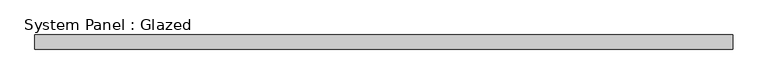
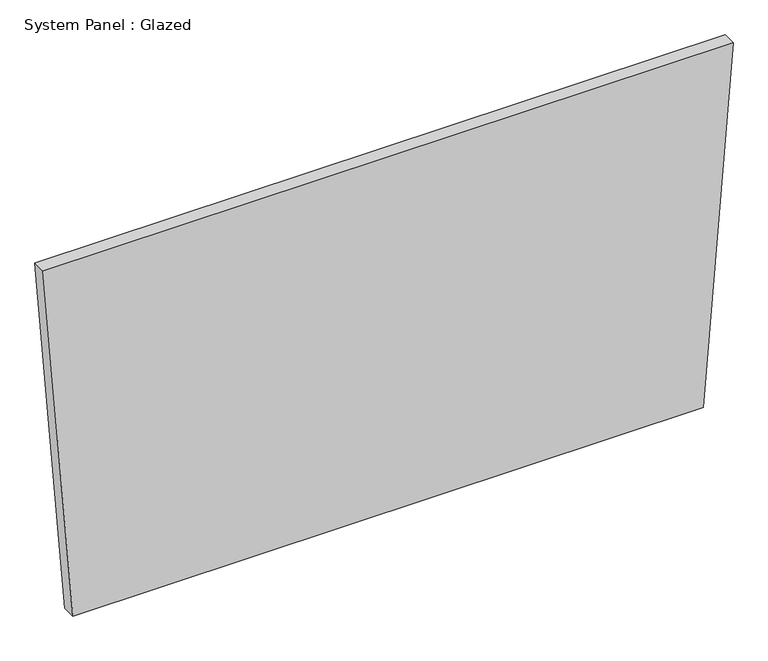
"""IFC4 building model written with IfcOpenShell, lengths in millimetres: plate geometry, System Panel : Glazed."""

from ifc_helpers import new_model, si_unit, frame, origin, place, context, project, spatial, polyline, outline, extrude, source, transform, mapped, element, save


def system_panel_glazed_fd240ddc(model_context):
    return source(origin(), model_context, "Body", "SweptSolid", [
        extrude(outline(polyline([(0.0, -574.7449039), (0.0, 574.7454379), (684.5126663, 629.2145187), (684.5193773, -629.2145187), (0.0, -574.7449039)])), frame((0.0, 19.05, 0.0), z_axis=(0.0, 1.0, 0.0), x_axis=(0.0, 0.0, 1.0)), (0.0, 0.0, 1.0), 25.4),
    ])


if __name__ == "__main__":
    model = new_model("IFC4")
    model_context = context("Model", 3, world=origin())
    ifc_project = project(units=[si_unit("LENGTHUNIT", "METRE", prefix="MILLI")], contexts=[model_context])
    site = spatial("IfcSite", under=ifc_project)
    building = spatial("IfcBuilding", under=site)
    placement = place(None, origin())
    system_panel_glazed_shape = system_panel_glazed_fd240ddc(model_context)
    element("IfcPlate", 1, ObjectType="System Panel : Glazed", at=placement, inside=building, context=model_context, shape_type="MappedRepresentation", body=[
        mapped(system_panel_glazed_shape, transform((0.0, 0.0, 0.0), x_axis=(1.0, 0.0, 0.0), y_axis=(0.0, 1.0, 0.0), z_axis=(0.0, 0.0, 1.0))),
    ])
    save(model, "model.ifc")
